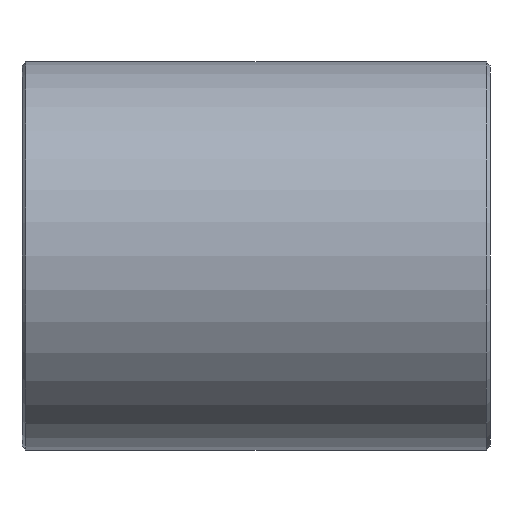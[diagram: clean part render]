
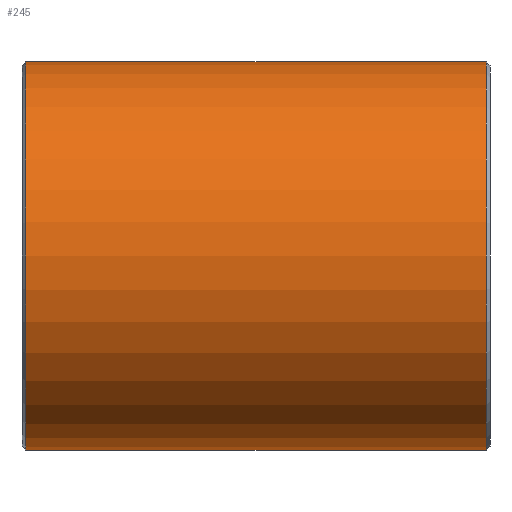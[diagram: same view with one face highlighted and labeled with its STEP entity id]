
A CAD part, left-side view. The second image highlights one B-rep face of the part: STEP entity #245.
In plain terms, the highlighted cylindrical face has radius 4.975 mm (diameter 9.95 mm), a partial arc.
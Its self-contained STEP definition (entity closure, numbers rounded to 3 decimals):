
#15 = FACE_OUTER_BOUND ( 'NONE', #361, .T. ) ;
#16 = DIRECTION ( 'NONE',  ( 0., 0., 1. ) ) ;
#33 = LINE ( 'NONE', #63, #395 ) ;
#50 = CARTESIAN_POINT ( 'NONE',  ( 0., 5.9, 0. ) ) ;
#51 = CARTESIAN_POINT ( 'NONE',  ( 0., 5.9, 4.975 ) ) ;
#59 = DIRECTION ( 'NONE',  ( 0., 0., -1. ) ) ;
#63 = CARTESIAN_POINT ( 'NONE',  ( 0., 6., 4.975 ) ) ;
#64 = CARTESIAN_POINT ( 'NONE',  ( 0., 6., 0. ) ) ;
#81 = EDGE_CURVE ( 'NONE', #323, #116, #263, .T. ) ;
#112 = EDGE_CURVE ( 'NONE', #178, #154, #344, .T. ) ;
#116 = VERTEX_POINT ( 'NONE', #441 ) ;
#125 = CARTESIAN_POINT ( 'NONE',  ( 0., 5.9, -4.975 ) ) ;
#128 = CYLINDRICAL_SURFACE ( 'NONE', #402, 4.975 ) ;
#133 = CARTESIAN_POINT ( 'NONE',  ( 0., -5.9, -4.975 ) ) ;
#137 = AXIS2_PLACEMENT_3D ( 'NONE', #50, #228, #164 ) ;
#151 = EDGE_CURVE ( 'NONE', #154, #323, #241, .T. ) ;
#154 = VERTEX_POINT ( 'NONE', #125 ) ;
#164 = DIRECTION ( 'NONE',  ( 0., 0., 1. ) ) ;
#178 = VERTEX_POINT ( 'NONE', #51 ) ;
#191 = ORIENTED_EDGE ( 'NONE', *, *, #151, .T. ) ;
#195 = ORIENTED_EDGE ( 'NONE', *, *, #112, .T. ) ;
#196 = CARTESIAN_POINT ( 'NONE',  ( 0., -5.9, 0. ) ) ;
#197 = VECTOR ( 'NONE', #229, 1000. ) ;
#222 = AXIS2_PLACEMENT_3D ( 'NONE', #196, #331, #16 ) ;
#228 = DIRECTION ( 'NONE',  ( 0., -1., 0. ) ) ;
#229 = DIRECTION ( 'NONE',  ( 0., -1., 0. ) ) ;
#241 = LINE ( 'NONE', #368, #197 ) ;
#245 = ADVANCED_FACE ( 'NONE', ( #15 ), #128, .T. ) ;
#254 = EDGE_CURVE ( 'NONE', #178, #116, #33, .T. ) ;
#263 = CIRCLE ( 'NONE', #222, 4.975 ) ;
#323 = VERTEX_POINT ( 'NONE', #133 ) ;
#331 = DIRECTION ( 'NONE',  ( 0., 1., 0. ) ) ;
#343 = DIRECTION ( 'NONE',  ( 0., -1., 0. ) ) ;
#344 = CIRCLE ( 'NONE', #137, 4.975 ) ;
#351 = ORIENTED_EDGE ( 'NONE', *, *, #254, .F. ) ;
#361 = EDGE_LOOP ( 'NONE', ( #351, #195, #191, #420 ) ) ;
#368 = CARTESIAN_POINT ( 'NONE',  ( 0., 6., -4.975 ) ) ;
#382 = DIRECTION ( 'NONE',  ( 0., -1., 0. ) ) ;
#395 = VECTOR ( 'NONE', #382, 1000. ) ;
#402 = AXIS2_PLACEMENT_3D ( 'NONE', #64, #343, #59 ) ;
#420 = ORIENTED_EDGE ( 'NONE', *, *, #81, .T. ) ;
#441 = CARTESIAN_POINT ( 'NONE',  ( 0., -5.9, 4.975 ) ) ;
